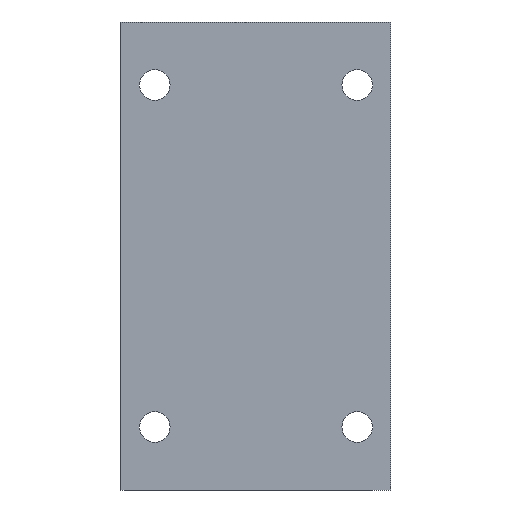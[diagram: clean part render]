
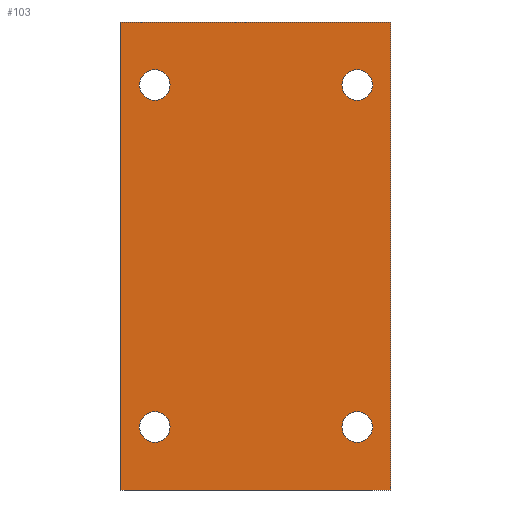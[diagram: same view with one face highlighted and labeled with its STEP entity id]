
A CAD part, front view. The second image highlights one B-rep face of the part: STEP entity #103.
In plain terms, the highlighted planar face has unit normal (0, -1, 0).
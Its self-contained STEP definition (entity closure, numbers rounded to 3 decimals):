
#19 = VERTEX_POINT ( 'NONE', #721 ) ;
#23 = ORIENTED_EDGE ( 'NONE', *, *, #1338, .F. ) ;
#36 = CIRCLE ( 'NONE', #2127, 3.4 ) ;
#38 = ORIENTED_EDGE ( 'NONE', *, *, #1525, .F. ) ;
#40 = FACE_BOUND ( 'NONE', #662, .T. ) ;
#103 = ADVANCED_FACE ( 'NONE', ( #1971, #188, #899, #1608, #40 ), #768, .F. ) ;
#118 = VERTEX_POINT ( 'NONE', #756 ) ;
#138 = VERTEX_POINT ( 'NONE', #255 ) ;
#158 = EDGE_CURVE ( 'NONE', #587, #624, #335, .T. ) ;
#188 = FACE_BOUND ( 'NONE', #2114, .T. ) ;
#223 = DIRECTION ( 'NONE',  ( 0., 0., -1. ) ) ;
#234 = DIRECTION ( 'NONE',  ( 0., 1., 0. ) ) ;
#255 = CARTESIAN_POINT ( 'NONE',  ( 22.5, -21., -34.6 ) ) ;
#276 = CARTESIAN_POINT ( 'NONE',  ( -22.5, -21., 38. ) ) ;
#282 = VERTEX_POINT ( 'NONE', #1515 ) ;
#306 = VECTOR ( 'NONE', #2028, 1000. ) ;
#308 = VERTEX_POINT ( 'NONE', #1890 ) ;
#320 = ORIENTED_EDGE ( 'NONE', *, *, #1670, .T. ) ;
#335 = CIRCLE ( 'NONE', #593, 3.4 ) ;
#337 = CIRCLE ( 'NONE', #2017, 3.4 ) ;
#352 = CARTESIAN_POINT ( 'NONE',  ( -22.5, -21., -34.6 ) ) ;
#354 = CARTESIAN_POINT ( 'NONE',  ( 22.5, -21., 38. ) ) ;
#425 = ORIENTED_EDGE ( 'NONE', *, *, #1127, .F. ) ;
#456 = AXIS2_PLACEMENT_3D ( 'NONE', #1637, #988, #1341 ) ;
#487 = ORIENTED_EDGE ( 'NONE', *, *, #1071, .F. ) ;
#500 = ORIENTED_EDGE ( 'NONE', *, *, #1558, .F. ) ;
#514 = AXIS2_PLACEMENT_3D ( 'NONE', #1349, #1746, #1360 ) ;
#516 = VECTOR ( 'NONE', #2097, 1000. ) ;
#556 = DIRECTION ( 'NONE',  ( 0., -1., 0. ) ) ;
#587 = VERTEX_POINT ( 'NONE', #1307 ) ;
#593 = AXIS2_PLACEMENT_3D ( 'NONE', #2036, #952, #967 ) ;
#624 = VERTEX_POINT ( 'NONE', #1445 ) ;
#662 = EDGE_LOOP ( 'NONE', ( #500, #2218 ) ) ;
#672 = CIRCLE ( 'NONE', #1072, 3.4 ) ;
#719 = CARTESIAN_POINT ( 'NONE',  ( -30., -21., 52. ) ) ;
#721 = CARTESIAN_POINT ( 'NONE',  ( -22.5, -21., 41.4 ) ) ;
#734 = CIRCLE ( 'NONE', #1869, 3.4 ) ;
#756 = CARTESIAN_POINT ( 'NONE',  ( 30., -21., 52. ) ) ;
#768 = PLANE ( 'NONE',  #2282 ) ;
#780 = CIRCLE ( 'NONE', #514, 3.4 ) ;
#784 = DIRECTION ( 'NONE',  ( 0., 0., 1. ) ) ;
#804 = VERTEX_POINT ( 'NONE', #352 ) ;
#814 = EDGE_CURVE ( 'NONE', #308, #1500, #1402, .T. ) ;
#835 = EDGE_CURVE ( 'NONE', #804, #282, #734, .T. ) ;
#839 = VERTEX_POINT ( 'NONE', #906 ) ;
#884 = CARTESIAN_POINT ( 'NONE',  ( -30., -21., -52. ) ) ;
#895 = DIRECTION ( 'NONE',  ( 1., 0., 0. ) ) ;
#899 = FACE_OUTER_BOUND ( 'NONE', #1523, .T. ) ;
#906 = CARTESIAN_POINT ( 'NONE',  ( -22.5, -21., 34.6 ) ) ;
#919 = DIRECTION ( 'NONE',  ( 0., 0., -1. ) ) ;
#952 = DIRECTION ( 'NONE',  ( 0., -1., 0. ) ) ;
#967 = DIRECTION ( 'NONE',  ( 0., 0., -1. ) ) ;
#988 = DIRECTION ( 'NONE',  ( 0., -1., 0. ) ) ;
#1032 = DIRECTION ( 'NONE',  ( 0., -1., 0. ) ) ;
#1071 = EDGE_CURVE ( 'NONE', #282, #804, #780, .T. ) ;
#1072 = AXIS2_PLACEMENT_3D ( 'NONE', #354, #2163, #223 ) ;
#1127 = EDGE_CURVE ( 'NONE', #118, #1500, #2241, .T. ) ;
#1149 = EDGE_LOOP ( 'NONE', ( #1289, #1351 ) ) ;
#1157 = ORIENTED_EDGE ( 'NONE', *, *, #835, .F. ) ;
#1193 = DIRECTION ( 'NONE',  ( 0., 0., -1. ) ) ;
#1254 = DIRECTION ( 'NONE',  ( 0., -1., 0. ) ) ;
#1260 = VECTOR ( 'NONE', #1193, 1000. ) ;
#1289 = ORIENTED_EDGE ( 'NONE', *, *, #1427, .F. ) ;
#1307 = CARTESIAN_POINT ( 'NONE',  ( 22.5, -21., 41.4 ) ) ;
#1338 = EDGE_CURVE ( 'NONE', #1921, #138, #1490, .T. ) ;
#1341 = DIRECTION ( 'NONE',  ( 0., 0., -1. ) ) ;
#1343 = ORIENTED_EDGE ( 'NONE', *, *, #814, .T. ) ;
#1349 = CARTESIAN_POINT ( 'NONE',  ( -22.5, -21., -38. ) ) ;
#1351 = ORIENTED_EDGE ( 'NONE', *, *, #1575, .F. ) ;
#1360 = DIRECTION ( 'NONE',  ( 0., 0., -1. ) ) ;
#1361 = EDGE_LOOP ( 'NONE', ( #23, #1375 ) ) ;
#1375 = ORIENTED_EDGE ( 'NONE', *, *, #1922, .F. ) ;
#1395 = LINE ( 'NONE', #2112, #516 ) ;
#1402 = LINE ( 'NONE', #884, #2155 ) ;
#1423 = CARTESIAN_POINT ( 'NONE',  ( 22.5, -21., -38. ) ) ;
#1427 = EDGE_CURVE ( 'NONE', #839, #19, #337, .T. ) ;
#1441 = CARTESIAN_POINT ( 'NONE',  ( -22.5, -21., 38. ) ) ;
#1445 = CARTESIAN_POINT ( 'NONE',  ( 22.5, -21., 34.6 ) ) ;
#1490 = CIRCLE ( 'NONE', #456, 3.4 ) ;
#1500 = VERTEX_POINT ( 'NONE', #2105 ) ;
#1515 = CARTESIAN_POINT ( 'NONE',  ( -22.5, -21., -41.4 ) ) ;
#1523 = EDGE_LOOP ( 'NONE', ( #1343, #425, #38, #320 ) ) ;
#1525 = EDGE_CURVE ( 'NONE', #1850, #118, #1395, .T. ) ;
#1558 = EDGE_CURVE ( 'NONE', #624, #587, #672, .T. ) ;
#1567 = CIRCLE ( 'NONE', #1981, 3.4 ) ;
#1575 = EDGE_CURVE ( 'NONE', #19, #839, #1567, .T. ) ;
#1608 = FACE_BOUND ( 'NONE', #1149, .T. ) ;
#1637 = CARTESIAN_POINT ( 'NONE',  ( 22.5, -21., -38. ) ) ;
#1670 = EDGE_CURVE ( 'NONE', #1850, #308, #2040, .T. ) ;
#1746 = DIRECTION ( 'NONE',  ( 0., -1., 0. ) ) ;
#1762 = DIRECTION ( 'NONE',  ( 0., 0., -1. ) ) ;
#1769 = CARTESIAN_POINT ( 'NONE',  ( 22.5, -21., -41.4 ) ) ;
#1799 = CARTESIAN_POINT ( 'NONE',  ( -22.5, -21., -38. ) ) ;
#1838 = CARTESIAN_POINT ( 'NONE',  ( -30., -21., 52. ) ) ;
#1850 = VERTEX_POINT ( 'NONE', #719 ) ;
#1869 = AXIS2_PLACEMENT_3D ( 'NONE', #1799, #1254, #1976 ) ;
#1890 = CARTESIAN_POINT ( 'NONE',  ( -30., -21., -52. ) ) ;
#1897 = DIRECTION ( 'NONE',  ( 0., -1., 0. ) ) ;
#1921 = VERTEX_POINT ( 'NONE', #1769 ) ;
#1922 = EDGE_CURVE ( 'NONE', #138, #1921, #36, .T. ) ;
#1971 = FACE_BOUND ( 'NONE', #1361, .T. ) ;
#1976 = DIRECTION ( 'NONE',  ( 0., 0., -1. ) ) ;
#1981 = AXIS2_PLACEMENT_3D ( 'NONE', #1441, #556, #919 ) ;
#2017 = AXIS2_PLACEMENT_3D ( 'NONE', #276, #1897, #2222 ) ;
#2028 = DIRECTION ( 'NONE',  ( 0., 0., -1. ) ) ;
#2036 = CARTESIAN_POINT ( 'NONE',  ( 22.5, -21., 38. ) ) ;
#2040 = LINE ( 'NONE', #2080, #306 ) ;
#2080 = CARTESIAN_POINT ( 'NONE',  ( -30., -21., 52. ) ) ;
#2084 = CARTESIAN_POINT ( 'NONE',  ( 30., -21., 52. ) ) ;
#2097 = DIRECTION ( 'NONE',  ( 1., 0., 0. ) ) ;
#2105 = CARTESIAN_POINT ( 'NONE',  ( 30., -21., -52. ) ) ;
#2112 = CARTESIAN_POINT ( 'NONE',  ( -30., -21., 52. ) ) ;
#2114 = EDGE_LOOP ( 'NONE', ( #487, #1157 ) ) ;
#2127 = AXIS2_PLACEMENT_3D ( 'NONE', #1423, #1032, #1762 ) ;
#2155 = VECTOR ( 'NONE', #895, 1000. ) ;
#2163 = DIRECTION ( 'NONE',  ( 0., -1., 0. ) ) ;
#2218 = ORIENTED_EDGE ( 'NONE', *, *, #158, .F. ) ;
#2222 = DIRECTION ( 'NONE',  ( 0., 0., -1. ) ) ;
#2241 = LINE ( 'NONE', #2084, #1260 ) ;
#2282 = AXIS2_PLACEMENT_3D ( 'NONE', #1838, #234, #784 ) ;
